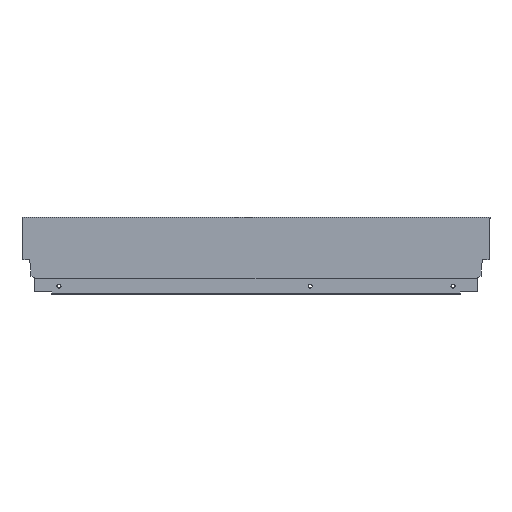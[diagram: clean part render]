
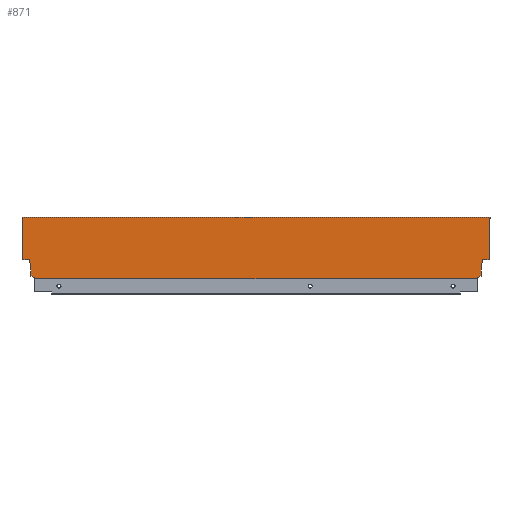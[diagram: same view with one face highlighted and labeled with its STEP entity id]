
A CAD part, top view. The second image highlights one B-rep face of the part: STEP entity #871.
In plain terms, the highlighted planar face has unit normal (0, 0, 1).
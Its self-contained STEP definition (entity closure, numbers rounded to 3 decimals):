
#2 = EDGE_CURVE ( 'NONE', #1482, #1473, #395, .T. ) ;
#6 = EDGE_CURVE ( 'NONE', #1494, #1495, #1055, .T. ) ;
#99 = EDGE_CURVE ( 'NONE', #1469, #1482, #1129, .T. ) ;
#100 = EDGE_CURVE ( 'NONE', #1474, #1492, #1131, .T. ) ;
#101 = EDGE_CURVE ( 'NONE', #1483, #1471, #1133, .T. ) ;
#102 = EDGE_CURVE ( 'NONE', #1492, #1490, #1135, .T. ) ;
#103 = EDGE_CURVE ( 'NONE', #1471, #1469, #1137, .T. ) ;
#104 = EDGE_CURVE ( 'NONE', #1490, #1477, #1139, .T. ) ;
#105 = EDGE_CURVE ( 'NONE', #1495, #1486, #1141, .T. ) ;
#106 = EDGE_CURVE ( 'NONE', #1464, #1483, #1104, .T. ) ;
#121 = EDGE_CURVE ( 'NONE', #1486, #1464, #1171, .T. ) ;
#132 = EDGE_CURVE ( 'NONE', #1504, #1502, #1183, .T. ) ;
#133 = EDGE_CURVE ( 'NONE', #1487, #1494, #1192, .T. ) ;
#134 = EDGE_CURVE ( 'NONE', #1485, #1506, #1190, .T. ) ;
#135 = EDGE_CURVE ( 'NONE', #1485, #1487, #1186, .T. ) ;
#136 = EDGE_CURVE ( 'NONE', #1474, #1473, #1198, .T. ) ;
#138 = EDGE_CURVE ( 'NONE', #1506, #1502, #1202, .T. ) ;
#140 = EDGE_CURVE ( 'NONE', #1477, #1504, #1195, .T. ) ;
#162 = AXIS2_PLACEMENT_3D ( 'NONE', #549, #555, #556 ) ;
#202 = ORIENTED_EDGE ( 'NONE', *, *, #136, .T. ) ;
#233 = ORIENTED_EDGE ( 'NONE', *, *, #140, .F. ) ;
#242 = ORIENTED_EDGE ( 'NONE', *, *, #100, .F. ) ;
#243 = ORIENTED_EDGE ( 'NONE', *, *, #103, .F. ) ;
#249 = ORIENTED_EDGE ( 'NONE', *, *, #2, .F. ) ;
#271 = ORIENTED_EDGE ( 'NONE', *, *, #101, .F. ) ;
#278 = ORIENTED_EDGE ( 'NONE', *, *, #99, .F. ) ;
#287 = ORIENTED_EDGE ( 'NONE', *, *, #105, .F. ) ;
#290 = ORIENTED_EDGE ( 'NONE', *, *, #6, .F. ) ;
#302 = ORIENTED_EDGE ( 'NONE', *, *, #104, .F. ) ;
#303 = ORIENTED_EDGE ( 'NONE', *, *, #121, .F. ) ;
#309 = ORIENTED_EDGE ( 'NONE', *, *, #138, .T. ) ;
#316 = ORIENTED_EDGE ( 'NONE', *, *, #132, .F. ) ;
#319 = ORIENTED_EDGE ( 'NONE', *, *, #102, .F. ) ;
#320 = ORIENTED_EDGE ( 'NONE', *, *, #134, .T. ) ;
#362 = ORIENTED_EDGE ( 'NONE', *, *, #106, .F. ) ;
#383 = ORIENTED_EDGE ( 'NONE', *, *, #133, .F. ) ;
#384 = ORIENTED_EDGE ( 'NONE', *, *, #135, .F. ) ;
#393 = VECTOR ( 'NONE', #1458, 1000. ) ;
#395 = LINE ( 'NONE', #1558, #393 ) ;
#429 = CARTESIAN_POINT ( 'NONE',  ( -8.9, 2.64, 7.5 ) ) ;
#430 = DIRECTION ( 'NONE',  ( -0.94, -0.342, 0. ) ) ;
#431 = CARTESIAN_POINT ( 'NONE',  ( -503.996, 1.146, 7.5 ) ) ;
#432 = DIRECTION ( 'NONE',  ( 0., 1., 0. ) ) ;
#433 = CARTESIAN_POINT ( 'NONE',  ( -7.06, 21.2, 7.5 ) ) ;
#434 = DIRECTION ( 'NONE',  ( -0.174, -0.985, 0. ) ) ;
#435 = CARTESIAN_POINT ( 'NONE',  ( -508.1, 2.64, 7.5 ) ) ;
#436 = DIRECTION ( 'NONE',  ( -0.94, 0.342, 0. ) ) ;
#437 = CARTESIAN_POINT ( 'NONE',  ( -8.9, 10.765, 7.5 ) ) ;
#438 = DIRECTION ( 'NONE',  ( 0., -1., 0. ) ) ;
#439 = CARTESIAN_POINT ( 'NONE',  ( -508.1, 10.765, 7.5 ) ) ;
#440 = DIRECTION ( 'NONE',  ( 0., 1., 0. ) ) ;
#442 = CARTESIAN_POINT ( 'NONE',  ( 1., 66.5, 7.5 ) ) ;
#443 = DIRECTION ( 'NONE',  ( -1., 0., 0. ) ) ;
#445 = DIRECTION ( 'NONE',  ( -1., 0., 0. ) ) ;
#460 = CARTESIAN_POINT ( 'NONE',  ( 0., 0., 7.5 ) ) ;
#477 = DIRECTION ( 'NONE',  ( 0., -1., 0. ) ) ;
#493 = CARTESIAN_POINT ( 'NONE',  ( -518., 66.5, 7.5 ) ) ;
#500 = CARTESIAN_POINT ( 'NONE',  ( -522., 21.2, 7.5 ) ) ;
#501 = DIRECTION ( 'NONE',  ( -1., 0., 0. ) ) ;
#502 = CARTESIAN_POINT ( 'NONE',  ( -517., 68., 7.5 ) ) ;
#503 = DIRECTION ( 'NONE',  ( 1., 0., 0. ) ) ;
#504 = CARTESIAN_POINT ( 'NONE',  ( -518., 66.5, 7.5 ) ) ;
#506 = DIRECTION ( 'NONE',  ( 1., 0., 0. ) ) ;
#508 = DIRECTION ( 'NONE',  ( 0., 1., 0. ) ) ;
#509 = CARTESIAN_POINT ( 'NONE',  ( -517., 0., 7.5 ) ) ;
#510 = DIRECTION ( 'NONE',  ( 1., 0., 0. ) ) ;
#513 = CARTESIAN_POINT ( 'NONE',  ( -517., 0., 7.5 ) ) ;
#514 = DIRECTION ( 'NONE',  ( 0., -1., 0. ) ) ;
#518 = CARTESIAN_POINT ( 'NONE',  ( -509.94, 21.2, 7.5 ) ) ;
#519 = DIRECTION ( 'NONE',  ( -0.174, 0.985, 0. ) ) ;
#546 = PLANE ( 'NONE',  #162 ) ;
#549 = CARTESIAN_POINT ( 'NONE',  ( -517., 0., 7.5 ) ) ;
#555 = DIRECTION ( 'NONE',  ( 0., 0., 1. ) ) ;
#556 = DIRECTION ( 'NONE',  ( 1., 0., 0. ) ) ;
#730 = CARTESIAN_POINT ( 'NONE',  ( -8.9, 2.64, 7.5 ) ) ;
#742 = CARTESIAN_POINT ( 'NONE',  ( 0., 21.2, 7.5 ) ) ;
#746 = CARTESIAN_POINT ( 'NONE',  ( -8.9, 10.765, 7.5 ) ) ;
#748 = CARTESIAN_POINT ( 'NONE',  ( -13.004, 0., 7.5 ) ) ;
#749 = CARTESIAN_POINT ( 'NONE',  ( -503.996, 0., 7.5 ) ) ;
#752 = CARTESIAN_POINT ( 'NONE',  ( -508.1, 10.765, 7.5 ) ) ;
#756 = CARTESIAN_POINT ( 'NONE',  ( -13.004, 1.146, 7.5 ) ) ;
#757 = CARTESIAN_POINT ( 'NONE',  ( -7.06, 21.2, 7.5 ) ) ;
#759 = CARTESIAN_POINT ( 'NONE',  ( -518., 66.5, 7.5 ) ) ;
#760 = CARTESIAN_POINT ( 'NONE',  ( 0., 66.5, 7.5 ) ) ;
#761 = CARTESIAN_POINT ( 'NONE',  ( -518., 68., 7.5 ) ) ;
#764 = CARTESIAN_POINT ( 'NONE',  ( -508.1, 2.64, 7.5 ) ) ;
#766 = CARTESIAN_POINT ( 'NONE',  ( -503.996, 1.146, 7.5 ) ) ;
#768 = CARTESIAN_POINT ( 'NONE',  ( 1., 68., 7.5 ) ) ;
#769 = CARTESIAN_POINT ( 'NONE',  ( 1., 66.5, 7.5 ) ) ;
#776 = CARTESIAN_POINT ( 'NONE',  ( -517., 21.2, 7.5 ) ) ;
#778 = CARTESIAN_POINT ( 'NONE',  ( -509.94, 21.2, 7.5 ) ) ;
#780 = CARTESIAN_POINT ( 'NONE',  ( -517., 66.5, 7.5 ) ) ;
#871 = ADVANCED_FACE ( 'NONE', ( #1224 ), #546, .T. ) ;
#1051 = VECTOR ( 'NONE', #1456, 1000. ) ;
#1055 = LINE ( 'NONE', #1459, #1051 ) ;
#1062 = EDGE_LOOP ( 'NONE', ( #383, #384, #320, #309, #316, #233, #302, #319, #242, #202, #249, #278, #243, #271, #362, #303, #287, #290 ) ) ;
#1104 = LINE ( 'NONE', #1290, #1143 ) ;
#1129 = LINE ( 'NONE', #429, #1130 ) ;
#1130 = VECTOR ( 'NONE', #430, 1000. ) ;
#1131 = LINE ( 'NONE', #431, #1132 ) ;
#1132 = VECTOR ( 'NONE', #432, 1000. ) ;
#1133 = LINE ( 'NONE', #433, #1134 ) ;
#1134 = VECTOR ( 'NONE', #434, 1000. ) ;
#1135 = LINE ( 'NONE', #435, #1136 ) ;
#1136 = VECTOR ( 'NONE', #436, 1000. ) ;
#1137 = LINE ( 'NONE', #437, #1138 ) ;
#1138 = VECTOR ( 'NONE', #438, 1000. ) ;
#1139 = LINE ( 'NONE', #439, #1140 ) ;
#1140 = VECTOR ( 'NONE', #440, 1000. ) ;
#1141 = LINE ( 'NONE', #442, #1142 ) ;
#1142 = VECTOR ( 'NONE', #443, 1000. ) ;
#1143 = VECTOR ( 'NONE', #445, 1000. ) ;
#1157 = VECTOR ( 'NONE', #477, 1000. ) ;
#1171 = LINE ( 'NONE', #460, #1157 ) ;
#1183 = LINE ( 'NONE', #500, #1187 ) ;
#1186 = LINE ( 'NONE', #504, #1196 ) ;
#1187 = VECTOR ( 'NONE', #501, 1000. ) ;
#1189 = VECTOR ( 'NONE', #519, 1000. ) ;
#1190 = LINE ( 'NONE', #493, #1194 ) ;
#1192 = LINE ( 'NONE', #502, #1193 ) ;
#1193 = VECTOR ( 'NONE', #503, 1000. ) ;
#1194 = VECTOR ( 'NONE', #506, 1000. ) ;
#1195 = LINE ( 'NONE', #518, #1189 ) ;
#1196 = VECTOR ( 'NONE', #508, 1000. ) ;
#1198 = LINE ( 'NONE', #509, #1199 ) ;
#1199 = VECTOR ( 'NONE', #510, 1000. ) ;
#1202 = LINE ( 'NONE', #513, #1203 ) ;
#1203 = VECTOR ( 'NONE', #514, 1000. ) ;
#1224 = FACE_OUTER_BOUND ( 'NONE', #1062, .T. ) ;
#1290 = CARTESIAN_POINT ( 'NONE',  ( 0., 21.2, 7.5 ) ) ;
#1456 = DIRECTION ( 'NONE',  ( 0., -1., 0. ) ) ;
#1458 = DIRECTION ( 'NONE',  ( 0., -1., 0. ) ) ;
#1459 = CARTESIAN_POINT ( 'NONE',  ( 1., 68., 7.5 ) ) ;
#1464 = VERTEX_POINT ( 'NONE', #742 ) ;
#1469 = VERTEX_POINT ( 'NONE', #730 ) ;
#1471 = VERTEX_POINT ( 'NONE', #746 ) ;
#1473 = VERTEX_POINT ( 'NONE', #748 ) ;
#1474 = VERTEX_POINT ( 'NONE', #749 ) ;
#1477 = VERTEX_POINT ( 'NONE', #752 ) ;
#1482 = VERTEX_POINT ( 'NONE', #756 ) ;
#1483 = VERTEX_POINT ( 'NONE', #757 ) ;
#1485 = VERTEX_POINT ( 'NONE', #759 ) ;
#1486 = VERTEX_POINT ( 'NONE', #760 ) ;
#1487 = VERTEX_POINT ( 'NONE', #761 ) ;
#1490 = VERTEX_POINT ( 'NONE', #764 ) ;
#1492 = VERTEX_POINT ( 'NONE', #766 ) ;
#1494 = VERTEX_POINT ( 'NONE', #768 ) ;
#1495 = VERTEX_POINT ( 'NONE', #769 ) ;
#1502 = VERTEX_POINT ( 'NONE', #776 ) ;
#1504 = VERTEX_POINT ( 'NONE', #778 ) ;
#1506 = VERTEX_POINT ( 'NONE', #780 ) ;
#1558 = CARTESIAN_POINT ( 'NONE',  ( -13.004, 1.146, 7.5 ) ) ;
